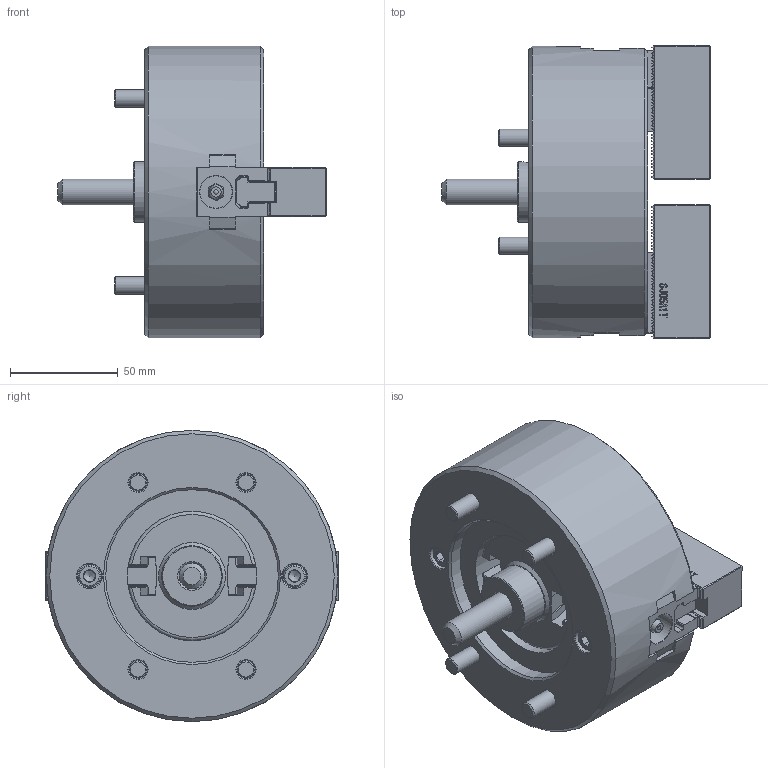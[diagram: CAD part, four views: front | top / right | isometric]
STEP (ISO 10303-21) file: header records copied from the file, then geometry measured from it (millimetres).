
FILE_DESCRIPTION (( 'STEP AP214' ), '1' );
FILE_NAME ('DT1_NT05_OUTSIDE_VIEW_HOL.STEP', '2024-05-14T00:59:00', ( '' ), ( '' ), 'SwSTEP 2.0', 'SolidWorks 2022', '' );
FILE_SCHEMA (( 'AUTOMOTIVE_DESIGN' ));
Length unit declared in the file: millimetre
Products named in the file (10): DT1_NT05_M8x22^DT1_NT05_ﾃﾞﾌｫﾙﾄ; DT1_NT05_DRAWSCREW^DT1_NT05_ﾃﾞﾌｫﾙﾄ; DT1_NT05_M8x60^DT1_NT05_ﾃﾞﾌｫﾙﾄ; DT1_NT05_M4x8^DT1_NT05_ﾃﾞﾌｫﾙﾄ; DT1_NT05_OUTSIDE_VIEW_HOL; DT1_NT05_TNUT^DT1_NT05_ﾃﾞﾌｫﾙﾄ; DT1_NT05_SOFTJAW^DT1_NT05_ﾃﾞﾌｫﾙﾄ; DT1_NT05_COVER^DT1_NT05_ﾃﾞﾌｫﾙﾄ; DT1_NT05_DN^DT1_NT05_ﾃﾞﾌｫﾙﾄ; DT1_NT05_BASE^DT1_NT05_ﾃﾞﾌｫﾙﾄ
Assembly tree (20 placements, depth 2):
  DT1_NT05_OUTSIDE_VIEW_HOL
    DT1_NT05_SOFTJAW^DT1_NT05_ﾃﾞﾌｫﾙﾄ  x2
    DT1_NT05_TNUT^DT1_NT05_ﾃﾞﾌｫﾙﾄ  x2
    DT1_NT05_COVER^DT1_NT05_ﾃﾞﾌｫﾙﾄ
    DT1_NT05_DRAWSCREW^DT1_NT05_ﾃﾞﾌｫﾙﾄ
    DT1_NT05_DN^DT1_NT05_ﾃﾞﾌｫﾙﾄ
    DT1_NT05_BASE^DT1_NT05_ﾃﾞﾌｫﾙﾄ
    DT1_NT05_M8x22^DT1_NT05_ﾃﾞﾌｫﾙﾄ  x4
    DT1_NT05_M8x60^DT1_NT05_ﾃﾞﾌｫﾙﾄ  x4
    DT1_NT05_M4x8^DT1_NT05_ﾃﾞﾌｫﾙﾄ  x4
Bounding box: 124.25 x 136.02 x 135 mm (x, y, z)
Volume: 804580.4 mm3; surface area: 131708.6 mm2
Topology: 20 solids, 20 shells, 2732 faces, 7702 edges, 5066 vertices
Faces by surface type: plane 1924, cylinder 441, bspline 216, cone 128, torus 21, sphere 2
Full cylindrical faces by diameter (mm): 2 x2, 3.3 x4, 3.571 x4, 4 x4, 6.99 x4, 8 x12, 8.3 x4, 8.5 x8, 10.22 x2, 10.5 x1, 11 x2, 12 x2, 13.27 x8, 13.5 x4, 14 x4, 15 x2, 17.5 x1, 18 x1, 28 x1, 60 x1, 80 x1, 135 x1
Entity records: 73204 total; most frequent: CARTESIAN_POINT 22091, ORIENTED_EDGE 11338, DIRECTION 9075, EDGE_CURVE 5669, LINE 4359, VECTOR 4359, VERTEX_POINT 3796, AXIS2_PLACEMENT_3D 2358
